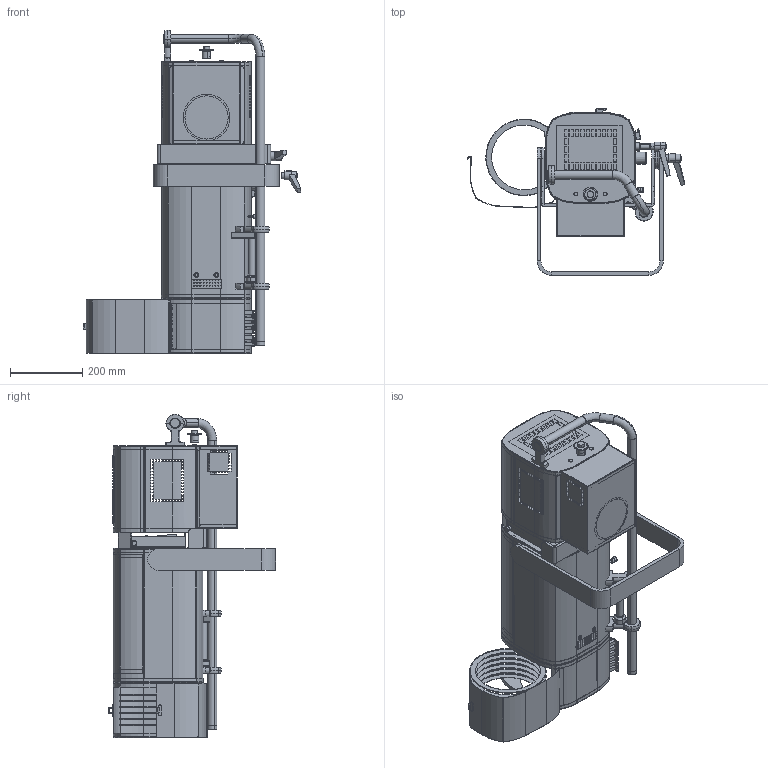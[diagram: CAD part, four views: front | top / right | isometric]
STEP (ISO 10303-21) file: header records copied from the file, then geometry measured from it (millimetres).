
FILE_DESCRIPTION (( 'STEP AP203' ), '1' );
FILE_NAME ('_Manon 1419.STEP', '2016-01-14T14:03:20', ( '' ), ( '' ), 'SwSTEP 2.0', 'SolidWorks 2015', '' );
FILE_SCHEMA (( 'CONFIG_CONTROL_DESIGN' ));
Products named in the file (1): _Manon 1419
Bounding box: 604.08 x 463.8 x 898 mm (x, y, z)
Volume: 2801678.7 mm3; surface area: 3150962.1 mm2
Topology: 84 solids, 85 shells, 3870 faces, 9742 edges, 6113 vertices
Faces by surface type: plane 2697, cylinder 784, torus 199, cone 122, bspline 50, sphere 18
Entity records: 117424 total; most frequent: CARTESIAN_POINT 22886, ORIENTED_EDGE 19416, DIRECTION 19365, EDGE_CURVE 9708, VECTOR 7085, LINE 7085, AXIS2_PLACEMENT_3D 6140, VERTEX_POINT 6113
